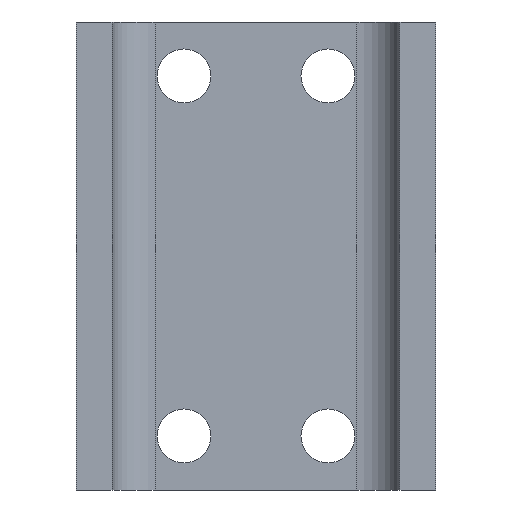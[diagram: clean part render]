
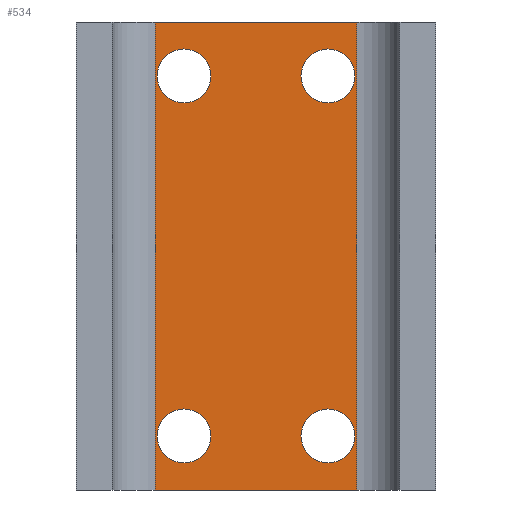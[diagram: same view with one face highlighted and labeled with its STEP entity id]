
A CAD part, front view. The second image highlights one B-rep face of the part: STEP entity #534.
In plain terms, the highlighted planar face has unit normal (0, -1, 0).
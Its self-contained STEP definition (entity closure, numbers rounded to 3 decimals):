
#68 = CARTESIAN_POINT ( 'NONE',  ( -20., 2137., 2172.5 ) ) ;
#94 = EDGE_CURVE ( 'NONE', #1512, #2195, #1175, .T. ) ;
#128 = CARTESIAN_POINT ( 'NONE',  ( 20., 2137., 2257.5 ) ) ;
#129 = PLANE ( 'NONE',  #3159 ) ;
#171 = DIRECTION ( 'NONE',  ( 0., 0., -1. ) ) ;
#190 = AXIS2_PLACEMENT_3D ( 'NONE', #726, #686, #414 ) ;
#199 = DIRECTION ( 'NONE',  ( 0., 0., -1. ) ) ;
#213 = ORIENTED_EDGE ( 'NONE', *, *, #3305, .F. ) ;
#232 = CARTESIAN_POINT ( 'NONE',  ( -20., 2137., 2272.5 ) ) ;
#245 = CARTESIAN_POINT ( 'NONE',  ( -20., 2137., 2165. ) ) ;
#265 = LINE ( 'NONE', #2036, #3350 ) ;
#294 = CARTESIAN_POINT ( 'NONE',  ( 20., 2137., 2157.5 ) ) ;
#336 = EDGE_CURVE ( 'NONE', #2148, #2122, #2265, .T. ) ;
#351 = EDGE_CURVE ( 'NONE', #2936, #1981, #3805, .T. ) ;
#355 = VECTOR ( 'NONE', #3074, 1000. ) ;
#414 = DIRECTION ( 'NONE',  ( 0., 0., -1. ) ) ;
#431 = CARTESIAN_POINT ( 'NONE',  ( -28., 2137., 2150. ) ) ;
#451 = CARTESIAN_POINT ( 'NONE',  ( -20., 2137., 2265. ) ) ;
#463 = EDGE_CURVE ( 'NONE', #894, #3008, #2214, .T. ) ;
#522 = CARTESIAN_POINT ( 'NONE',  ( 28., 2137., 2150. ) ) ;
#534 = ADVANCED_FACE ( 'NONE', ( #2820, #1069, #3475, #1991, #1944 ), #129, .F. ) ;
#566 = VECTOR ( 'NONE', #3432, 1000. ) ;
#586 = ORIENTED_EDGE ( 'NONE', *, *, #3629, .F. ) ;
#686 = DIRECTION ( 'NONE',  ( 0., -1., 0. ) ) ;
#703 = DIRECTION ( 'NONE',  ( 0., 0., 1. ) ) ;
#718 = ORIENTED_EDGE ( 'NONE', *, *, #3192, .F. ) ;
#726 = CARTESIAN_POINT ( 'NONE',  ( 20., 2137., 2265. ) ) ;
#755 = ORIENTED_EDGE ( 'NONE', *, *, #2867, .T. ) ;
#795 = CARTESIAN_POINT ( 'NONE',  ( 20., 2137., 2165. ) ) ;
#875 = EDGE_LOOP ( 'NONE', ( #586, #755, #2470, #3580 ) ) ;
#894 = VERTEX_POINT ( 'NONE', #1113 ) ;
#1016 = EDGE_LOOP ( 'NONE', ( #1530, #718 ) ) ;
#1017 = DIRECTION ( 'NONE',  ( 0., 0., 1. ) ) ;
#1046 = DIRECTION ( 'NONE',  ( 0., 1., 0. ) ) ;
#1069 = FACE_BOUND ( 'NONE', #1388, .T. ) ;
#1076 = DIRECTION ( 'NONE',  ( 0., -1., 0. ) ) ;
#1109 = AXIS2_PLACEMENT_3D ( 'NONE', #795, #2564, #1017 ) ;
#1113 = CARTESIAN_POINT ( 'NONE',  ( -20., 2137., 2157.5 ) ) ;
#1175 = CIRCLE ( 'NONE', #1109, 7.5 ) ;
#1202 = EDGE_CURVE ( 'NONE', #3008, #894, #3468, .T. ) ;
#1275 = CARTESIAN_POINT ( 'NONE',  ( 28., 2137., 2280. ) ) ;
#1317 = VERTEX_POINT ( 'NONE', #431 ) ;
#1354 = AXIS2_PLACEMENT_3D ( 'NONE', #451, #1563, #171 ) ;
#1388 = EDGE_LOOP ( 'NONE', ( #3390, #213 ) ) ;
#1430 = CIRCLE ( 'NONE', #190, 7.5 ) ;
#1504 = DIRECTION ( 'NONE',  ( 0., -1., 0. ) ) ;
#1512 = VERTEX_POINT ( 'NONE', #294 ) ;
#1530 = ORIENTED_EDGE ( 'NONE', *, *, #1671, .F. ) ;
#1539 = DIRECTION ( 'NONE',  ( 0., 0., 1. ) ) ;
#1563 = DIRECTION ( 'NONE',  ( 0., -1., 0. ) ) ;
#1651 = DIRECTION ( 'NONE',  ( 0., -1., 0. ) ) ;
#1663 = CIRCLE ( 'NONE', #3172, 7.5 ) ;
#1671 = EDGE_CURVE ( 'NONE', #3385, #2302, #1663, .T. ) ;
#1684 = DIRECTION ( 'NONE',  ( 0., -1., 0. ) ) ;
#1701 = CARTESIAN_POINT ( 'NONE',  ( 20., 2137., 2265. ) ) ;
#1709 = CARTESIAN_POINT ( 'NONE',  ( -28., 2137., 2150. ) ) ;
#1798 = ORIENTED_EDGE ( 'NONE', *, *, #1202, .F. ) ;
#1803 = AXIS2_PLACEMENT_3D ( 'NONE', #2978, #3283, #2681 ) ;
#1943 = VECTOR ( 'NONE', #1539, 1000. ) ;
#1944 = FACE_OUTER_BOUND ( 'NONE', #875, .T. ) ;
#1977 = DIRECTION ( 'NONE',  ( 0., 0., 1. ) ) ;
#1981 = VERTEX_POINT ( 'NONE', #232 ) ;
#1991 = FACE_BOUND ( 'NONE', #2534, .T. ) ;
#2036 = CARTESIAN_POINT ( 'NONE',  ( -28., 2137., 2280. ) ) ;
#2122 = VERTEX_POINT ( 'NONE', #1275 ) ;
#2130 = EDGE_CURVE ( 'NONE', #2122, #3854, #265, .T. ) ;
#2148 = VERTEX_POINT ( 'NONE', #522 ) ;
#2195 = VERTEX_POINT ( 'NONE', #3500 ) ;
#2214 = CIRCLE ( 'NONE', #3019, 7.5 ) ;
#2228 = CARTESIAN_POINT ( 'NONE',  ( 20., 2137., 2272.5 ) ) ;
#2254 = ORIENTED_EDGE ( 'NONE', *, *, #351, .F. ) ;
#2265 = LINE ( 'NONE', #3163, #355 ) ;
#2295 = DIRECTION ( 'NONE',  ( 0., 0., 1. ) ) ;
#2302 = VERTEX_POINT ( 'NONE', #2228 ) ;
#2368 = LINE ( 'NONE', #3555, #1943 ) ;
#2470 = ORIENTED_EDGE ( 'NONE', *, *, #336, .T. ) ;
#2503 = EDGE_LOOP ( 'NONE', ( #3199, #1798 ) ) ;
#2534 = EDGE_LOOP ( 'NONE', ( #2254, #2649 ) ) ;
#2564 = DIRECTION ( 'NONE',  ( 0., -1., 0. ) ) ;
#2580 = EDGE_CURVE ( 'NONE', #1981, #2936, #3759, .T. ) ;
#2649 = ORIENTED_EDGE ( 'NONE', *, *, #2580, .F. ) ;
#2656 = CARTESIAN_POINT ( 'NONE',  ( -20., 2137., 2265. ) ) ;
#2681 = DIRECTION ( 'NONE',  ( 0., 0., 1. ) ) ;
#2693 = DIRECTION ( 'NONE',  ( 0., 0., -1. ) ) ;
#2820 = FACE_BOUND ( 'NONE', #2503, .T. ) ;
#2867 = EDGE_CURVE ( 'NONE', #1317, #2148, #3544, .T. ) ;
#2936 = VERTEX_POINT ( 'NONE', #3239 ) ;
#2978 = CARTESIAN_POINT ( 'NONE',  ( 20., 2137., 2165. ) ) ;
#3001 = CIRCLE ( 'NONE', #1803, 7.5 ) ;
#3008 = VERTEX_POINT ( 'NONE', #68 ) ;
#3019 = AXIS2_PLACEMENT_3D ( 'NONE', #3048, #1076, #2295 ) ;
#3048 = CARTESIAN_POINT ( 'NONE',  ( -20., 2137., 2165. ) ) ;
#3074 = DIRECTION ( 'NONE',  ( 0., 0., 1. ) ) ;
#3159 = AXIS2_PLACEMENT_3D ( 'NONE', #3185, #1046, #703 ) ;
#3163 = CARTESIAN_POINT ( 'NONE',  ( 28., 2137., 0. ) ) ;
#3172 = AXIS2_PLACEMENT_3D ( 'NONE', #1701, #1651, #199 ) ;
#3185 = CARTESIAN_POINT ( 'NONE',  ( -28., 2137., 0. ) ) ;
#3192 = EDGE_CURVE ( 'NONE', #2302, #3385, #1430, .T. ) ;
#3199 = ORIENTED_EDGE ( 'NONE', *, *, #463, .F. ) ;
#3238 = DIRECTION ( 'NONE',  ( -1., 0., 0. ) ) ;
#3239 = CARTESIAN_POINT ( 'NONE',  ( -20., 2137., 2257.5 ) ) ;
#3283 = DIRECTION ( 'NONE',  ( 0., -1., 0. ) ) ;
#3290 = AXIS2_PLACEMENT_3D ( 'NONE', #245, #1684, #1977 ) ;
#3305 = EDGE_CURVE ( 'NONE', #2195, #1512, #3001, .T. ) ;
#3350 = VECTOR ( 'NONE', #3238, 1000. ) ;
#3385 = VERTEX_POINT ( 'NONE', #128 ) ;
#3390 = ORIENTED_EDGE ( 'NONE', *, *, #94, .F. ) ;
#3432 = DIRECTION ( 'NONE',  ( 1., 0., 0. ) ) ;
#3468 = CIRCLE ( 'NONE', #3290, 7.5 ) ;
#3475 = FACE_BOUND ( 'NONE', #1016, .T. ) ;
#3500 = CARTESIAN_POINT ( 'NONE',  ( 20., 2137., 2172.5 ) ) ;
#3544 = LINE ( 'NONE', #1709, #566 ) ;
#3555 = CARTESIAN_POINT ( 'NONE',  ( -28., 2137., 0. ) ) ;
#3580 = ORIENTED_EDGE ( 'NONE', *, *, #2130, .T. ) ;
#3629 = EDGE_CURVE ( 'NONE', #1317, #3854, #2368, .T. ) ;
#3759 = CIRCLE ( 'NONE', #3861, 7.5 ) ;
#3805 = CIRCLE ( 'NONE', #1354, 7.5 ) ;
#3835 = CARTESIAN_POINT ( 'NONE',  ( -28., 2137., 2280. ) ) ;
#3854 = VERTEX_POINT ( 'NONE', #3835 ) ;
#3861 = AXIS2_PLACEMENT_3D ( 'NONE', #2656, #1504, #2693 ) ;
